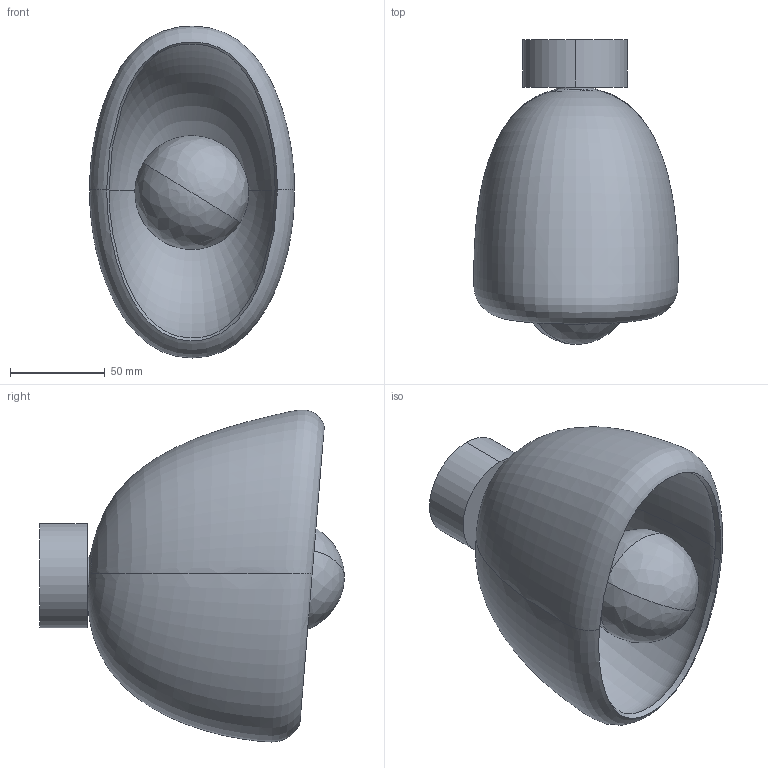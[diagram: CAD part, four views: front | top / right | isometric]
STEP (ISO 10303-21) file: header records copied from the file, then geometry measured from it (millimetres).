
FILE_DESCRIPTION (( 'STEP AP214' ), '1' );
FILE_NAME ('A1354.STEP', '2025-12-17T10:36:44', ( '' ), ( '' ), 'SwSTEP 2.0', 'SolidWorks 2023', '' );
FILE_SCHEMA (( 'AUTOMOTIVE_DESIGN' ));
Length unit declared in the file: millimetre
Products named in the file (1): A1354
Bounding box: 107.97 x 160.57 x 174.99 mm (x, y, z)
Surface area: 135526 mm2 (no closed solid volume)
Topology: 0 solids, 3 shells, 56 faces, 127 edges, 68 vertices
Faces by surface type: bspline 30, cylinder 14, plane 12
Entity records: 13949 total; most frequent: CARTESIAN_POINT 13005, ORIENTED_EDGE 238, DIRECTION 120, EDGE_CURVE 119, VERTEX_POINT 68, B_SPLINE_CURVE_WITH_KNOTS 58, EDGE_LOOP 57, AXIS2_PLACEMENT_3D 57
